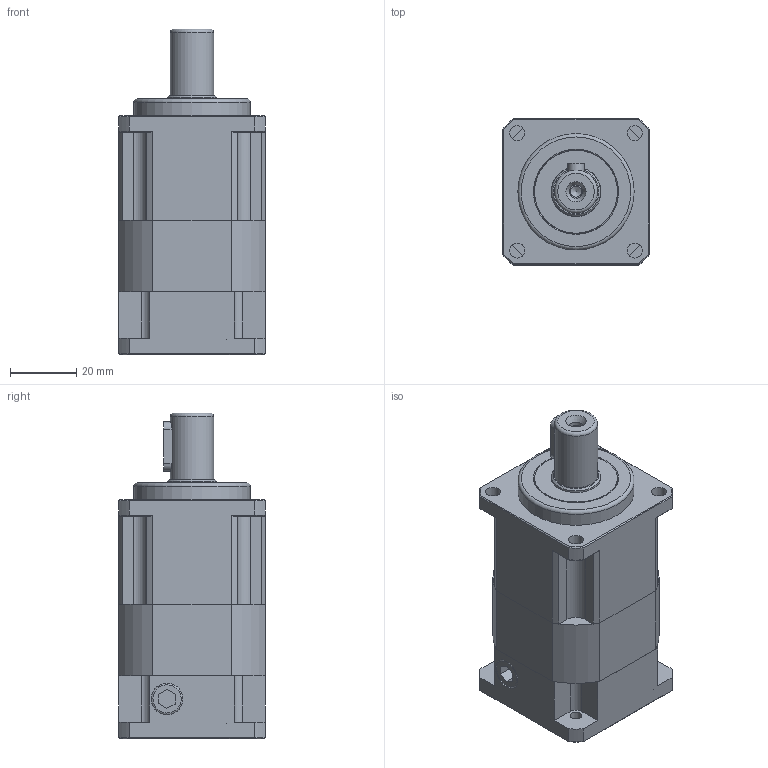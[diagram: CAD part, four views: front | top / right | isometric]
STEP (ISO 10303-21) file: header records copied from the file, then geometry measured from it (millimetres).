
FILE_DESCRIPTION((''),'2;1');
FILE_NAME('E:\감속기 도면\조립도\PGX44-H-10(AZM46AK).stp','2022-01-24T14:25:14',('young'),(''),'Autodesk Inventor 2012','Autodesk Inventor 2012','');
FILE_SCHEMA(('AUTOMOTIVE_DESIGN { 1 0 10303 214 1 1 1 1 }'));
Length unit declared in the file: millimetre
Products named in the file (3): 조립품2; PGX44-H-10(AZM46AK); Bush(8-6)
Assembly tree (2 placements, depth 2):
  조립품2
    PGX44-H-10(AZM46AK)
    Bush(8-6)
Bounding box: 44 x 44 x 98 mm (x, y, z)
Volume: 109236.3 mm3; surface area: 43062.4 mm2
Topology: 17 solids, 17 shells, 448 faces, 1089 edges, 704 vertices
Faces by surface type: plane 246, cylinder 126, cone 53, torus 14, bspline 9
Full cylindrical faces by diameter (mm): 2.5 x4, 3.242 x1, 3.3 x5, 3.5 x4, 4 x6, 4.2 x8, 4.5 x5, 6 x4, 7 x5, 7.3 x4, 8.2 x1, 9.5 x4, 13 x1, 14.2 x1, 14.8 x2, 15 x3, 22 x1, 25 x4, 28 x1, 30 x1, 31.5 x1, 32 x2, 35 x1
Entity records: 13297 total; most frequent: CARTESIAN_POINT 3146, DIRECTION 2063, ORIENTED_EDGE 1910, EDGE_CURVE 955, AXIS2_PLACEMENT_3D 774, VERTEX_POINT 678, EDGE_LOOP 633, VECTOR 515
